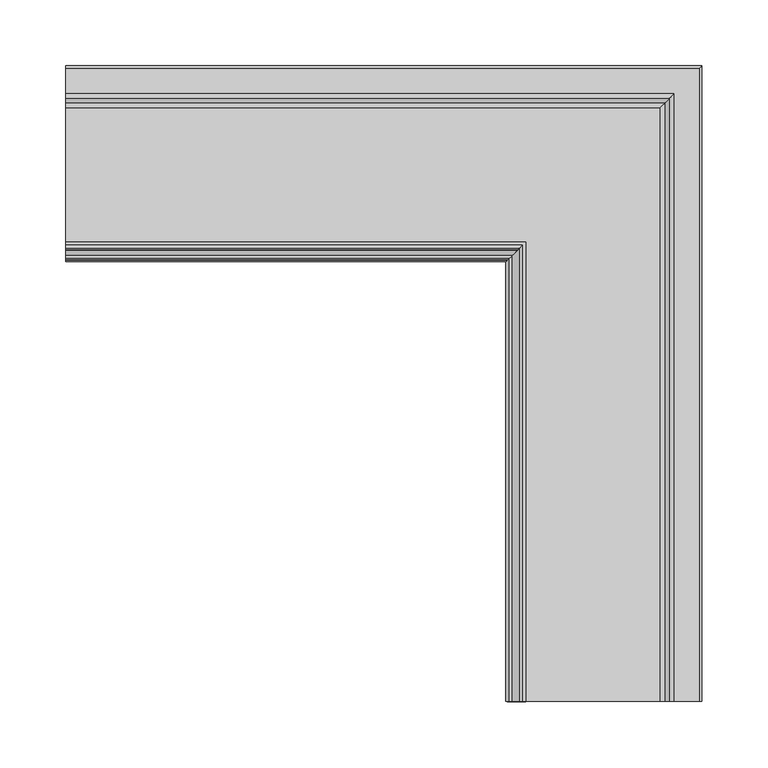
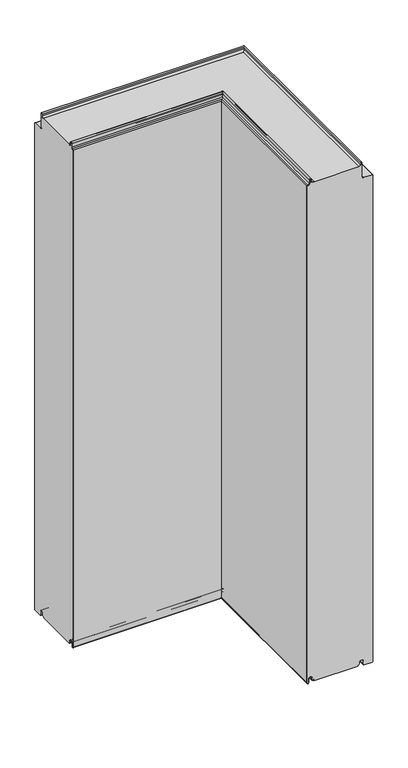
"""IFC4 building model written with IfcOpenShell, lengths in millimetres: plate geometry, Угловой модуль Fronttop : Угловой модуль Fronttop 150/1190."""

from ifc_helpers import new_model, si_unit, frame, origin, place, context, project, spatial, polyline, circle_curve, ellipse_curve, source, transform, mapped, element, save
from ifc_brep_helpers import plane_surface, cylinder_surface, revolved_surface, advanced_brep


def plate_540ac33f(model_context):
    return source(origin(), model_context, "Body", "AdvancedBrep", [
        advanced_brep(
        [(-234.5, 15.0, 3.0), (-234.5, 13.0, 3.0), (-234.5, 12.0, 4.0), (-234.5, 12.0, 8.0), (-234.5, 3.0, 8.0), (-234.5, 3.0, -0.5), (-234.5, 1.0, -0.5), (-234.5, 1.0, 1185.0278643), (-234.5, 2.1111111, 1186.0216723), (-234.5, 6.0, 1189.5), (-234.5, 6.0, 1198.0), (-234.5, 9.0, 1198.0), (-234.5, 9.0, 1194.0), (-234.5, 13.0, 1190.0), (-234.5, 117.0, 1190.0), (-234.5, 121.0, 1194.0), (-234.5, 121.0, 1198.0), (-234.5, 124.0, 1198.0), (-234.5, 124.0, 1165.0), (-234.5, 128.0, 1161.0), (-234.5, 147.0, 1161.0), (-234.5, 149.0, 1159.0), (-234.5, 149.0, 0.0), (-234.5, 147.0, -2.0), (-234.5, 129.0, -2.0), (-234.5, 127.0, 0.0), (-234.5, 127.0, 8.0), (-234.5, 118.0, 8.0), (-234.5, 118.0, 4.0), (-234.5, 117.0, 3.0), (-234.5, 115.0, 3.0), (-234.5, 115.0, 0.0), (-234.5, 15.0, 0.0), (115.0, 15.0, 0.0), (115.0, 15.0, 3.0), (215.0, 115.0, 0.0), (215.0, -334.5, 0.0), (115.0, -334.5, 0.0), (215.0, 115.0, 3.0), (217.0, 117.0, 3.0), (217.0, -334.5, 3.0), (215.0, -334.5, 3.0), (218.0, 118.0, 4.0), (218.0, 118.0, 8.0), (227.0, 127.0, 8.0), (227.0, 127.0, 0.0), (229.0, 129.0, -2.0), (247.0, 147.0, -2.0), (247.0, -334.5, -2.0), (229.0, -334.5, -2.0), (249.0, 149.0, 0.0), (249.0, 149.0, 1159.0), (247.0, 147.0, 1161.0), (228.0, 128.0, 1161.0), (228.0, -334.5, 1161.0), (247.0, -334.5, 1161.0), (224.0, 124.0, 1165.0), (224.0, 124.0, 1198.0), (221.0, 121.0, 1198.0), (221.0, 121.0, 1194.0), (217.0, 117.0, 1190.0), (113.0, 13.0, 1190.0), (113.0, -334.5, 1190.0), (217.0, -334.5, 1190.0), (109.0, 9.0, 1194.0), (109.0, 9.0, 1198.0), (106.0, 6.0, 1198.0), (106.0, 6.0, 1189.5), (102.1111111, 2.1111111, 1186.021672), (101.0, 1.0, 1185.0278643), (101.0, 1.0, -0.5), (103.0, 3.0, -0.5), (103.0, 3.0, 8.0), (112.0, 12.0, 8.0), (112.0, 12.0, 4.0), (113.0, 13.0, 3.0), (115.0, -334.5, 3.0), (113.0, -334.5, 3.0), (218.0, -334.5, 4.0), (218.0, -334.5, 8.0), (227.0, -334.5, 8.0), (227.0, -334.5, 0.0), (249.0, -334.5, 0.0), (249.0, -334.5, 1159.0), (224.0, -334.5, 1165.0), (224.0, -334.5, 1198.0), (221.0, -334.5, 1198.0), (221.0, -334.5, 1194.0), (109.0, -334.5, 1194.0), (109.0, -334.5, 1198.0), (106.0, -334.5, 1198.0), (106.0, -334.5, 1189.5), (102.1111111, -334.5, 1186.021672), (101.0, -334.5, 1185.0278643), (101.0, -334.5, -0.5), (103.0, -334.5, -0.5), (103.0, -334.5, 8.0), (112.0, -334.5, 8.0), (112.0, -334.5, 4.0)],
        [
            (0, 1),
            (1, 2, circle_curve(frame((-234.5, 13.0, 4.0), z_axis=(-1.0, 0.0, 0.0), x_axis=(0.0, -1.0, 0.0)), 1.0)),
            (2, 3),
            (3, 4, circle_curve(frame((-234.5, 7.5, 8.0), z_axis=(1.0, 0.0, 0.0), x_axis=(0.0, -1.0, 0.0)), 4.5)),
            (4, 5),
            (5, 6, circle_curve(frame((-234.5, 2.0, -0.5), z_axis=(-1.0, 0.0, 0.0), x_axis=(0.0, -1.0, 0.0)), 1.0)),
            (6, 7),
            (7, 8, circle_curve(frame((-234.5, 2.0, 1185.0278643), z_axis=(-1.0, 0.0, 0.0), x_axis=(0.0, -1.0, 0.0)), 1.0)),
            (8, 9, circle_curve(frame((-234.5, 2.5, 1189.5), z_axis=(1.0, 0.0, 0.0), x_axis=(0.0, -1.0, 0.0)), 3.5)),
            (9, 10),
            (10, 11, circle_curve(frame((-234.5, 7.5, 1198.0), z_axis=(-1.0, 0.0, 0.0), x_axis=(0.0, -1.0, 0.0)), 1.5)),
            (11, 12),
            (12, 13, circle_curve(frame((-234.5, 13.0, 1194.0), z_axis=(1.0, 0.0, 0.0), x_axis=(0.0, -1.0, 0.0)), 4.0)),
            (13, 14),
            (14, 15, circle_curve(frame((-234.5, 117.0, 1194.0), z_axis=(1.0, 0.0, 0.0), x_axis=(0.0, -1.0, 0.0)), 4.0)),
            (15, 16),
            (16, 17, circle_curve(frame((-234.5, 122.5, 1198.0), z_axis=(-1.0, 0.0, 0.0), x_axis=(0.0, -1.0, 0.0)), 1.5)),
            (17, 18),
            (18, 19, circle_curve(frame((-234.5, 128.0, 1165.0), z_axis=(1.0, 0.0, 0.0), x_axis=(0.0, -1.0, 0.0)), 4.0)),
            (19, 20),
            (20, 21, circle_curve(frame((-234.5, 147.0, 1159.0), z_axis=(-1.0, 0.0, 0.0), x_axis=(0.0, -1.0, 0.0)), 2.0)),
            (21, 22),
            (22, 23, circle_curve(frame((-234.5, 147.0, 0.0), z_axis=(-1.0, 0.0, 0.0), x_axis=(0.0, -1.0, 0.0)), 2.0)),
            (23, 24),
            (24, 25, circle_curve(frame((-234.5, 129.0, 0.0), z_axis=(-1.0, 0.0, 0.0), x_axis=(0.0, -1.0, 0.0)), 2.0)),
            (25, 26),
            (26, 27, circle_curve(frame((-234.5, 122.5, 8.0), z_axis=(1.0, 0.0, 0.0), x_axis=(0.0, -1.0, 0.0)), 4.5)),
            (27, 28),
            (28, 29, circle_curve(frame((-234.5, 117.0, 4.0), z_axis=(-1.0, 0.0, 0.0), x_axis=(0.0, -1.0, 0.0)), 1.0)),
            (29, 30),
            (30, 31),
            (31, 32),
            (32, 0),
            (32, 33),
            (33, 34),
            (34, 0),
            (31, 35),
            (35, 36),
            (36, 37),
            (37, 33),
            (30, 38),
            (38, 35),
            (29, 39),
            (39, 40),
            (40, 41),
            (41, 38),
            (28, 42),
            (42, 39, ellipse_curve(frame((217.0, 117.0, 4.0), z_axis=(-0.7071067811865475, 0.7071067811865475, 0.0), x_axis=(-0.7071067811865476, -0.7071067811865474, 0.0)), 1.4142136, 1.0)),
            (27, 43),
            (43, 42),
            (26, 44),
            (44, 43, ellipse_curve(frame((222.5, 122.5, 8.0), z_axis=(0.7071067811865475, -0.7071067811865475, 0.0), x_axis=(0.7071067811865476, 0.7071067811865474, 0.0)), 6.363961, 4.5)),
            (25, 45),
            (45, 44),
            (24, 46),
            (46, 45, ellipse_curve(frame((229.0, 129.0, 0.0), z_axis=(-0.7071067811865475, 0.7071067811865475, 0.0), x_axis=(-0.7071067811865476, -0.7071067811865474, 0.0)), 2.8284271, 2.0)),
            (23, 47),
            (47, 48),
            (48, 49),
            (49, 46),
            (22, 50),
            (50, 47, ellipse_curve(frame((247.0, 147.0, 0.0), z_axis=(-0.7071067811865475, 0.7071067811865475, 0.0), x_axis=(-0.7071067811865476, -0.7071067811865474, 0.0)), 2.8284271, 2.0)),
            (21, 51),
            (51, 50),
            (20, 52),
            (52, 51, ellipse_curve(frame((247.0, 147.0, 1159.0), z_axis=(-0.7071067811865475, 0.7071067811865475, 0.0), x_axis=(-0.7071067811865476, -0.7071067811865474, 0.0)), 2.8284271, 2.0)),
            (19, 53),
            (53, 54),
            (54, 55),
            (55, 52),
            (18, 56),
            (56, 53, ellipse_curve(frame((228.0, 128.0, 1165.0), z_axis=(0.7071067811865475, -0.7071067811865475, 0.0), x_axis=(0.7071067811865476, 0.7071067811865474, 0.0)), 5.6568542, 4.0)),
            (17, 57),
            (57, 56),
            (16, 58),
            (58, 57, ellipse_curve(frame((222.5, 122.5, 1198.0), z_axis=(-0.7071067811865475, 0.7071067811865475, 0.0), x_axis=(-0.7071067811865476, -0.7071067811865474, 0.0)), 2.1213203, 1.5)),
            (15, 59),
            (59, 58),
            (14, 60),
            (60, 59, ellipse_curve(frame((217.0, 117.0, 1194.0), z_axis=(0.7071067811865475, -0.7071067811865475, 0.0), x_axis=(0.7071067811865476, 0.7071067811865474, 0.0)), 5.6568542, 4.0)),
            (13, 61),
            (61, 62),
            (62, 63),
            (63, 60),
            (12, 64),
            (64, 61, ellipse_curve(frame((113.0, 13.0, 1194.0), z_axis=(0.7071067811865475, -0.7071067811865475, 0.0), x_axis=(0.7071067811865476, 0.7071067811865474, 0.0)), 5.6568542, 4.0)),
            (11, 65),
            (65, 64),
            (10, 66),
            (66, 65, ellipse_curve(frame((107.5, 7.5, 1198.0), z_axis=(-0.7071067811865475, 0.7071067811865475, 0.0), x_axis=(-0.7071067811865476, -0.7071067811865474, 0.0)), 2.1213204, 1.5)),
            (9, 67),
            (67, 66),
            (8, 68),
            (68, 67, ellipse_curve(frame((102.5, 2.5, 1189.5), z_axis=(0.7071067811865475, -0.7071067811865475, 0.0), x_axis=(0.7071067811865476, 0.7071067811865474, 0.0)), 4.9497475, 3.5)),
            (7, 69),
            (69, 68, ellipse_curve(frame((102.0, 2.0, 1185.0278643), z_axis=(-0.7071067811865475, 0.7071067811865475, 0.0), x_axis=(-0.7071067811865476, -0.7071067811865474, 0.0)), 1.4142136, 1.0)),
            (6, 70),
            (70, 69),
            (5, 71),
            (71, 70, ellipse_curve(frame((102.0, 2.0, -0.5), z_axis=(-0.7071067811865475, 0.7071067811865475, 0.0), x_axis=(-0.7071067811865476, -0.7071067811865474, 0.0)), 1.4142136, 1.0)),
            (4, 72),
            (72, 71),
            (3, 73),
            (73, 72, ellipse_curve(frame((107.5, 7.5, 8.0), z_axis=(0.7071067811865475, -0.7071067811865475, 0.0), x_axis=(0.7071067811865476, 0.7071067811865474, 0.0)), 6.363961, 4.5)),
            (2, 74),
            (74, 73),
            (1, 75),
            (75, 74, ellipse_curve(frame((113.0, 13.0, 4.0), z_axis=(-0.7071067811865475, 0.7071067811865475, 0.0), x_axis=(-0.7071067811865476, -0.7071067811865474, 0.0)), 1.4142136, 1.0)),
            (34, 76),
            (76, 77),
            (77, 75),
            (76, 37),
            (36, 41),
            (40, 78, circle_curve(frame((217.0, -334.5, 4.0), z_axis=(0.0, -1.0, 0.0), x_axis=(-1.0, 0.0, 0.0)), 1.0)),
            (78, 79),
            (79, 80, circle_curve(frame((222.5, -334.5, 8.0), z_axis=(0.0, 1.0, 0.0), x_axis=(-1.0, 0.0, 0.0)), 4.5)),
            (80, 81),
            (81, 49, circle_curve(frame((229.0, -334.5, 0.0), z_axis=(0.0, -1.0, 0.0), x_axis=(-1.0, 0.0, 0.0)), 2.0)),
            (48, 82, circle_curve(frame((247.0, -334.5, 0.0), z_axis=(0.0, -1.0, 0.0), x_axis=(-1.0, 0.0, 0.0)), 2.0)),
            (82, 83),
            (83, 55, circle_curve(frame((247.0, -334.5, 1159.0), z_axis=(0.0, -1.0, 0.0), x_axis=(-1.0, 0.0, 0.0)), 2.0)),
            (54, 84, circle_curve(frame((228.0, -334.5, 1165.0), z_axis=(0.0, 1.0, 0.0), x_axis=(-1.0, 0.0, 0.0)), 4.0)),
            (84, 85),
            (85, 86, circle_curve(frame((222.5, -334.5, 1198.0), z_axis=(0.0, -1.0, 0.0), x_axis=(-1.0, 0.0, 0.0)), 1.5)),
            (86, 87),
            (87, 63, circle_curve(frame((217.0, -334.5, 1194.0), z_axis=(0.0, 1.0, 0.0), x_axis=(-1.0, 0.0, 0.0)), 4.0)),
            (62, 88, circle_curve(frame((113.0, -334.5, 1194.0), z_axis=(0.0, 1.0, 0.0), x_axis=(-1.0, 0.0, 0.0)), 4.0)),
            (88, 89),
            (89, 90, circle_curve(frame((107.5, -334.5, 1198.0), z_axis=(0.0, -1.0, 0.0), x_axis=(-1.0, 0.0, 0.0)), 1.5)),
            (90, 91),
            (91, 92, circle_curve(frame((102.5, -334.5, 1189.5), z_axis=(0.0, 1.0, 0.0), x_axis=(-1.0, 0.0, 0.0)), 3.5)),
            (92, 93, circle_curve(frame((102.0, -334.5, 1185.0278643), z_axis=(0.0, -1.0, 0.0), x_axis=(-1.0, 0.0, 0.0)), 1.0)),
            (93, 94),
            (94, 95, circle_curve(frame((102.0, -334.5, -0.5), z_axis=(0.0, -1.0, 0.0), x_axis=(-1.0, 0.0, 0.0)), 1.0)),
            (95, 96),
            (96, 97, circle_curve(frame((107.5, -334.5, 8.0), z_axis=(0.0, 1.0, 0.0), x_axis=(-1.0, 0.0, 0.0)), 4.5)),
            (97, 98),
            (98, 77, circle_curve(frame((113.0, -334.5, 4.0), z_axis=(0.0, -1.0, 0.0), x_axis=(-1.0, 0.0, 0.0)), 1.0)),
            (42, 78),
            (43, 79),
            (44, 80),
            (45, 81),
            (50, 82),
            (51, 83),
            (56, 84),
            (57, 85),
            (58, 86),
            (59, 87),
            (64, 88),
            (65, 89),
            (66, 90),
            (67, 91),
            (68, 92),
            (69, 93),
            (70, 94),
            (71, 95),
            (72, 96),
            (73, 97),
            (74, 98),
        ],
        [
            plane_surface(frame((-234.5, 0.0, 0.0), z_axis=(-1.0, 0.0, 0.0), x_axis=(0.0, 0.0, 1.0))),
            plane_surface(frame((-234.5, 15.0, 0.0), z_axis=(0.0, -1.0, 0.0), x_axis=(1.0, 0.0, 0.0))),
            plane_surface(frame((-234.5, 115.0, 0.0), z_axis=(0.0, 0.0, -1.0), x_axis=(1.0, 0.0, 0.0))),
            plane_surface(frame((-234.5, 115.0, 3.0), z_axis=(0.0, 1.0, 0.0), x_axis=(1.0, 0.0, 0.0))),
            plane_surface(frame((-234.5, 117.0, 3.0), z_axis=(0.0, 0.0, -1.0), x_axis=(1.0, 0.0, 0.0))),
            cylinder_surface(frame((-234.5, 117.0, 4.0), z_axis=(-1.0, 0.0, 0.0), x_axis=(0.0, -1.0, 0.0)), 1.0),
            plane_surface(frame((-234.5, 118.0, 8.0), z_axis=(0.0, 1.0, 0.0), x_axis=(1.0, 0.0, 0.0))),
            revolved_surface(polyline([(227.0, 118.0, 8.0), (-234.5, 118.0, 8.0)]), (-234.5, 122.5, 8.0), (1.0, 0.0, 0.0)),
            plane_surface(frame((-234.5, 127.0, 0.0), z_axis=(0.0, -1.0, 0.0), x_axis=(1.0, 0.0, 0.0))),
            cylinder_surface(frame((-234.5, 129.0, 0.0), z_axis=(-1.0, 0.0, 0.0), x_axis=(0.0, -1.0, 0.0)), 2.0),
            plane_surface(frame((-234.5, 147.0, -2.0), z_axis=(0.0, 0.0, -1.0), x_axis=(1.0, 0.0, 0.0))),
            cylinder_surface(frame((-234.5, 147.0, 0.0), z_axis=(-1.0, 0.0, 0.0), x_axis=(0.0, -1.0, 0.0)), 2.0),
            plane_surface(frame((-234.5, 149.0, 1159.0), z_axis=(0.0, 1.0, 0.0), x_axis=(1.0, 0.0, 0.0))),
            cylinder_surface(frame((-234.5, 147.0, 1159.0), z_axis=(-1.0, 0.0, 0.0), x_axis=(0.0, -1.0, 0.0)), 2.0),
            plane_surface(frame((-234.5, 128.0, 1161.0), z_axis=(0.0, 0.0, 1.0), x_axis=(1.0, 0.0, 0.0))),
            revolved_surface(polyline([(231.9999999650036, 124.0, 1165.0), (-234.5, 124.0, 1165.0)]), (-234.5, 128.0, 1165.0), (1.0, 0.0, 0.0)),
            plane_surface(frame((-234.5, 124.0, 1198.0), z_axis=(0.0, 1.0, 0.0), x_axis=(1.0, 0.0, 0.0))),
            cylinder_surface(frame((-234.5, 122.5, 1198.0), z_axis=(-1.0, 0.0, 0.0), x_axis=(0.0, -1.0, 0.0)), 1.5),
            plane_surface(frame((-234.5, 121.0, 1194.0), z_axis=(0.0, -1.0, 0.0), x_axis=(1.0, 0.0, 0.0))),
            revolved_surface(polyline([(221.0, 113.0, 1194.0), (-234.5, 113.0, 1194.0)]), (-234.5, 117.0, 1194.0), (1.0, 0.0, 0.0)),
            plane_surface(frame((-234.5, 13.0, 1190.0), z_axis=(0.0, 0.0, 1.0), x_axis=(1.0, 0.0, 0.0))),
            revolved_surface(polyline([(116.99999996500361, 9.0, 1194.0), (-234.5, 9.0, 1194.0)]), (-234.5, 13.0, 1194.0), (1.0, 0.0, 0.0)),
            plane_surface(frame((-234.5, 9.0, 1198.0), z_axis=(0.0, 1.0, 0.0), x_axis=(1.0, 0.0, 0.0))),
            cylinder_surface(frame((-234.5, 7.5, 1198.0), z_axis=(-1.0, 0.0, 0.0), x_axis=(0.0, -1.0, 0.0)), 1.5),
            plane_surface(frame((-234.5, 6.0, 1189.5), z_axis=(0.0, -1.0, 0.0), x_axis=(1.0, 0.0, 0.0))),
            revolved_surface(polyline([(106.00000002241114, -1.0, 1189.5), (-234.5, -1.0, 1189.5)]), (-234.5, 2.5, 1189.5), (1.0, 0.0, 0.0)),
            cylinder_surface(frame((-234.5, 2.0, 1185.0278643), z_axis=(-1.0, 0.0, 0.0), x_axis=(0.0, -1.0, 0.0)), 1.0),
            plane_surface(frame((-234.5, 1.0, -0.5), z_axis=(0.0, -1.0, 0.0), x_axis=(1.0, 0.0, 0.0))),
            cylinder_surface(frame((-234.5, 2.0, -0.5), z_axis=(-1.0, 0.0, 0.0), x_axis=(0.0, -1.0, 0.0)), 1.0),
            plane_surface(frame((-234.5, 3.0, 8.0), z_axis=(0.0, 1.0, 0.0), x_axis=(1.0, 0.0, 0.0))),
            revolved_surface(polyline([(112.0, 3.0, 8.0), (-234.5, 3.0, 8.0)]), (-234.5, 7.5, 8.0), (1.0, 0.0, 0.0)),
            plane_surface(frame((-234.5, 12.0, 4.0), z_axis=(0.0, -1.0, 0.0), x_axis=(1.0, 0.0, 0.0))),
            cylinder_surface(frame((-234.5, 13.0, 4.0), z_axis=(-1.0, 0.0, 0.0), x_axis=(0.0, -1.0, 0.0)), 1.0),
            plane_surface(frame((-234.5, 15.0, 3.0), z_axis=(0.0, 0.0, -1.0), x_axis=(1.0, 0.0, 0.0))),
            plane_surface(frame((100.0, -334.5, 0.0), z_axis=(0.0, -1.0, 0.0), x_axis=(0.0, 0.0, 1.0))),
            plane_surface(frame((115.0, 15.0, 0.0), z_axis=(-1.0, 0.0, 0.0), x_axis=(0.0, -1.0, 0.0))),
            plane_surface(frame((215.0, 115.0, 3.0), z_axis=(1.0, 0.0, 0.0), x_axis=(0.0, -1.0, 0.0))),
            cylinder_surface(frame((217.0, 0.0, 4.0), z_axis=(0.0, 1.0, 0.0), x_axis=(-1.0, 0.0, 0.0)), 1.0),
            plane_surface(frame((218.0, 118.0, 8.0), z_axis=(1.0, 0.0, 0.0), x_axis=(0.0, -1.0, 0.0))),
            revolved_surface(polyline([(218.0, -334.5, 8.0), (218.0, 127.0, 8.0)]), (222.5, 0.0, 8.0), (0.0, -1.0, 0.0)),
            plane_surface(frame((227.0, 127.0, 0.0), z_axis=(-1.0, 0.0, 0.0), x_axis=(0.0, -1.0, 0.0))),
            cylinder_surface(frame((229.0, 0.0, 0.0), z_axis=(0.0, 1.0, 0.0), x_axis=(-1.0, 0.0, 0.0)), 2.0),
            cylinder_surface(frame((247.0, 0.0, 0.0), z_axis=(0.0, 1.0, 0.0), x_axis=(-1.0, 0.0, 0.0)), 2.0),
            plane_surface(frame((249.0, 149.0, 1159.0), z_axis=(1.0, 0.0, 0.0), x_axis=(0.0, -1.0, 0.0))),
            cylinder_surface(frame((247.0, 0.0, 1159.0), z_axis=(0.0, 1.0, 0.0), x_axis=(-1.0, 0.0, 0.0)), 2.0),
            revolved_surface(polyline([(224.0, -334.5, 1165.0), (224.0, 131.9999999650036, 1165.0)]), (228.0, 0.0, 1165.0), (0.0, -1.0, 0.0)),
            plane_surface(frame((224.0, 124.0, 1198.0), z_axis=(1.0, 0.0, 0.0), x_axis=(0.0, -1.0, 0.0))),
            cylinder_surface(frame((222.5, 0.0, 1198.0), z_axis=(0.0, 1.0, 0.0), x_axis=(-1.0, 0.0, 0.0)), 1.5),
            plane_surface(frame((221.0, 121.0, 1194.0), z_axis=(-1.0, 0.0, 0.0), x_axis=(0.0, -1.0, 0.0))),
            revolved_surface(polyline([(213.0, -334.5, 1194.0), (213.0, 121.0, 1194.0)]), (217.0, 0.0, 1194.0), (0.0, -1.0, 0.0)),
            revolved_surface(polyline([(109.0, -334.5, 1194.0), (109.0, 16.999999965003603, 1194.0)]), (113.0, 0.0, 1194.0), (0.0, -1.0, 0.0)),
            plane_surface(frame((109.0, 9.0, 1198.0), z_axis=(1.0, 0.0, 0.0), x_axis=(0.0, -1.0, 0.0))),
            cylinder_surface(frame((107.5, 0.0, 1198.0), z_axis=(0.0, 1.0, 0.0), x_axis=(-1.0, 0.0, 0.0)), 1.5),
            plane_surface(frame((106.0, 6.0, 1189.5), z_axis=(-1.0, 0.0, 0.0), x_axis=(0.0, -1.0, 0.0))),
            revolved_surface(polyline([(99.0, -334.5, 1189.5), (99.0, 6.000000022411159, 1189.5)]), (102.5, 0.0, 1189.5), (0.0, -1.0, 0.0)),
            cylinder_surface(frame((102.0, 0.0, 1185.0278643), z_axis=(0.0, 1.0, 0.0), x_axis=(-1.0, 0.0, 0.0)), 1.0),
            plane_surface(frame((101.0, 1.0, -0.5), z_axis=(-1.0, 0.0, 0.0), x_axis=(0.0, -1.0, 0.0))),
            cylinder_surface(frame((102.0, 0.0, -0.5), z_axis=(0.0, 1.0, 0.0), x_axis=(-1.0, 0.0, 0.0)), 1.0),
            plane_surface(frame((103.0, 3.0, 8.0), z_axis=(1.0, 0.0, 0.0), x_axis=(0.0, -1.0, 0.0))),
            revolved_surface(polyline([(103.0, -334.5, 8.0), (103.0, 12.0, 8.0)]), (107.5, 0.0, 8.0), (0.0, -1.0, 0.0)),
            plane_surface(frame((112.0, 12.0, 4.0), z_axis=(-1.0, 0.0, 0.0), x_axis=(0.0, -1.0, 0.0))),
            cylinder_surface(frame((113.0, 0.0, 4.0), z_axis=(0.0, 1.0, 0.0), x_axis=(-1.0, 0.0, 0.0)), 1.0),
        ],
        [
            (0, [[1, 2, 3, 4, 5, 6, 7, 8, 9, 10, 11, 12, 13, 14, 15, 16, 17, 18, 19, 20, 21, 22, 23, 24, 25, 26, 27, 28, 29, 30, 31, 32, 33]]),
            (1, [[-33, 34, 35, 36]]),
            (2, [[-32, 37, 38, 39, 40, -34]]),
            (3, [[-31, 41, 42, -37]]),
            (4, [[-30, 43, 44, 45, 46, -41]]),
            (5, [[-29, 47, 48, -43]]),
            (6, [[-28, 49, 50, -47]]),
            (7, [[-27, 51, 52, -49]]),
            (8, [[-26, 53, 54, -51]]),
            (9, [[-25, 55, 56, -53]]),
            (10, [[-24, 57, 58, 59, 60, -55]]),
            (11, [[-23, 61, 62, -57]]),
            (12, [[-22, 63, 64, -61]]),
            (13, [[-21, 65, 66, -63]]),
            (14, [[-20, 67, 68, 69, 70, -65]]),
            (15, [[-19, 71, 72, -67]]),
            (16, [[-18, 73, 74, -71]]),
            (17, [[-17, 75, 76, -73]]),
            (18, [[-16, 77, 78, -75]]),
            (19, [[-15, 79, 80, -77]]),
            (20, [[-14, 81, 82, 83, 84, -79]]),
            (21, [[-13, 85, 86, -81]]),
            (22, [[-12, 87, 88, -85]]),
            (23, [[-11, 89, 90, -87]]),
            (24, [[-10, 91, 92, -89]]),
            (25, [[-9, 93, 94, -91]]),
            (26, [[-8, 95, 96, -93]]),
            (27, [[-7, 97, 98, -95]]),
            (28, [[-6, 99, 100, -97]]),
            (29, [[-5, 101, 102, -99]]),
            (30, [[-4, 103, 104, -101]]),
            (31, [[-3, 105, 106, -103]]),
            (32, [[-2, 107, 108, -105]]),
            (33, [[-1, -36, 109, 110, 111, -107]]),
            (34, [[112, -39, 113, -45, 114, 115, 116, 117, 118, -59, 119, 120, 121, -69, 122, 123, 124, 125, 126, -83, 127, 128, 129, 130, 131, 132, 133, 134, 135, 136, 137, 138, -110]]),
            (35, [[-35, -40, -112, -109]]),
            (36, [[-42, -46, -113, -38]]),
            (37, [[-48, 139, -114, -44]]),
            (38, [[-50, 140, -115, -139]]),
            (39, [[-52, 141, -116, -140]]),
            (40, [[-54, 142, -117, -141]]),
            (41, [[-56, -60, -118, -142]]),
            (42, [[-62, 143, -119, -58]]),
            (43, [[-64, 144, -120, -143]]),
            (44, [[-66, -70, -121, -144]]),
            (45, [[-72, 145, -122, -68]]),
            (46, [[-74, 146, -123, -145]]),
            (47, [[-76, 147, -124, -146]]),
            (48, [[-78, 148, -125, -147]]),
            (49, [[-80, -84, -126, -148]]),
            (50, [[-86, 149, -127, -82]]),
            (51, [[-88, 150, -128, -149]]),
            (52, [[-90, 151, -129, -150]]),
            (53, [[-92, 152, -130, -151]]),
            (54, [[-94, 153, -131, -152]]),
            (55, [[-96, 154, -132, -153]]),
            (56, [[-98, 155, -133, -154]]),
            (57, [[-100, 156, -134, -155]]),
            (58, [[-102, 157, -135, -156]]),
            (59, [[-104, 158, -136, -157]]),
            (60, [[-106, 159, -137, -158]]),
            (61, [[-108, -111, -138, -159]]),
        ],
    ),
        advanced_brep(
        [(-234.5, 13.0, 1191.0), (-234.5, 15.0, 1191.0), (-234.5, 15.0, 1190.0), (-234.5, 13.0, 1190.0), (-234.5, 9.0, 1194.0), (-234.5, 9.0, 1198.0), (-234.5, 6.0, 1198.0), (-234.5, 6.0, 1189.5), (-234.5, 2.1134897, 1186.0214069), (-234.5, 1.0, 1185.0), (-234.5, 1.0, -0.5), (-234.5, 3.0, -0.5), (-234.5, 3.0, 8.0), (-234.5, 12.0, 8.0), (-234.5, 12.0, 4.0), (-234.5, 13.0, 3.0), (-234.5, 15.0, 3.0), (-234.5, 15.0, 2.0), (-234.5, 13.0, 2.0), (-234.5, 11.0, 4.0), (-234.5, 11.0, 8.0), (-234.5, 4.0, 8.0), (-234.5, 4.0, -0.5), (-234.5, 0.0, -0.5), (-234.5, 0.0, 1185.0), (-234.5, 2.220863, 1186.9877675), (-234.5, 5.0, 1189.5), (-234.5, 5.0, 1198.0), (-234.5, 10.0, 1198.0), (-234.5, 10.0, 1194.0), (113.0, 13.0, 1191.0), (113.0, -334.5, 1191.0), (115.0, -334.5, 1191.0), (115.0, 15.0, 1191.0), (115.0, 15.0, 1190.0), (115.0, -334.5, 1190.0), (113.0, -334.5, 1190.0), (113.0, 13.0, 1190.0), (109.0, 9.0, 1194.0), (109.0, 9.0, 1198.0), (106.0, 6.0, 1198.0), (106.0, 6.0, 1189.5), (102.1134897, 2.1134897, 1186.0214069), (101.0, 1.0, 1185.0), (101.0, 1.0, -0.5), (103.0, 3.0, -0.5), (103.0, 3.0, 8.0), (112.0, 12.0, 8.0), (112.0, 12.0, 4.0), (113.0, 13.0, 3.0), (113.0, -334.5, 3.0), (115.0, -334.5, 3.0), (115.0, 15.0, 3.0), (115.0, 15.0, 2.0), (115.0, -334.5, 2.0), (113.0, -334.5, 2.0), (113.0, 13.0, 2.0), (111.0, 11.0, 4.0), (111.0, 11.0, 8.0), (104.0, 4.0, 8.0), (104.0, 4.0, -0.5), (100.0, 0.0, -0.5), (100.0, 0.0, 1185.0), (102.220863, 2.220863, 1186.9877675), (105.0, 5.0, 1189.5), (105.0, 5.0, 1198.0), (110.0, 10.0, 1198.0), (110.0, 10.0, 1194.0), (110.0, -334.5, 1194.0), (110.0, -334.5, 1198.0), (105.0, -334.5, 1198.0), (105.0, -334.5, 1189.5), (102.2239212, -334.5, 1187.0152907), (100.0, -334.5, 1185.0), (100.0, -334.5, -0.5), (104.0, -334.5, -0.5), (104.0, -334.5, 8.0), (111.0, -334.5, 8.0), (111.0, -334.5, 4.0), (112.0, -334.5, 4.0), (112.0, -334.5, 8.0), (103.0, -334.5, 8.0), (103.0, -334.5, -0.5), (101.0, -334.5, -0.5), (101.0, -334.5, 1185.0), (102.1104315, -334.5, 1185.9938837), (106.0, -334.5, 1189.5), (106.0, -334.5, 1198.0), (109.0, -334.5, 1198.0), (109.0, -334.5, 1194.0)],
        [
            (0, 1),
            (1, 2),
            (2, 3),
            (3, 4, circle_curve(frame((-234.5, 13.0, 1194.0), z_axis=(-1.0, 0.0, 0.0), x_axis=(0.0, -1.0, 0.0)), 4.0)),
            (4, 5),
            (5, 6, circle_curve(frame((-234.5, 7.5, 1198.0), z_axis=(1.0, 0.0, 0.0), x_axis=(0.0, -1.0, 0.0)), 1.5)),
            (6, 7),
            (7, 8, circle_curve(frame((-234.5, 2.5, 1189.5), z_axis=(-1.0, 0.0, 0.0), x_axis=(0.0, -1.0, 0.0)), 3.5)),
            (8, 9, circle_curve(frame((-234.5, 2.0, 1185.0), z_axis=(1.0, 0.0, 0.0), x_axis=(0.0, -1.0, 0.0)), 1.0)),
            (9, 10),
            (10, 11, circle_curve(frame((-234.5, 2.0, -0.5), z_axis=(1.0, 0.0, 0.0), x_axis=(0.0, -1.0, 0.0)), 1.0)),
            (11, 12),
            (12, 13, circle_curve(frame((-234.5, 7.5, 8.0), z_axis=(-1.0, 0.0, 0.0), x_axis=(0.0, -1.0, 0.0)), 4.5)),
            (13, 14),
            (14, 15, circle_curve(frame((-234.5, 13.0, 4.0), z_axis=(1.0, 0.0, 0.0), x_axis=(0.0, -1.0, 0.0)), 1.0)),
            (15, 16),
            (16, 17),
            (17, 18),
            (18, 19, circle_curve(frame((-234.5, 13.0, 4.0), z_axis=(-1.0, 0.0, 0.0), x_axis=(0.0, -1.0, 0.0)), 2.0)),
            (19, 20),
            (20, 21, circle_curve(frame((-234.5, 7.5, 8.0), z_axis=(1.0, 0.0, 0.0), x_axis=(0.0, -1.0, 0.0)), 3.5)),
            (21, 22),
            (22, 23, circle_curve(frame((-234.5, 2.0, -0.5), z_axis=(-1.0, 0.0, 0.0), x_axis=(0.0, -1.0, 0.0)), 2.0)),
            (23, 24),
            (24, 25, circle_curve(frame((-234.5, 2.0, 1185.0), z_axis=(-1.0, 0.0, 0.0), x_axis=(0.0, -1.0, 0.0)), 2.0)),
            (25, 26, circle_curve(frame((-234.5, 2.5, 1189.5), z_axis=(1.0, 0.0, 0.0), x_axis=(0.0, -1.0, 0.0)), 2.5)),
            (26, 27),
            (27, 28, circle_curve(frame((-234.5, 7.5, 1198.0), z_axis=(-1.0, 0.0, 0.0), x_axis=(0.0, -1.0, 0.0)), 2.5)),
            (28, 29),
            (29, 0, circle_curve(frame((-234.5, 13.0, 1194.0), z_axis=(1.0, 0.0, 0.0), x_axis=(0.0, -1.0, 0.0)), 3.0)),
            (0, 30),
            (30, 31),
            (31, 32),
            (32, 33),
            (33, 1),
            (33, 34),
            (34, 2),
            (34, 35),
            (35, 36),
            (36, 37),
            (37, 3),
            (37, 38, ellipse_curve(frame((113.0, 13.0, 1194.0), z_axis=(-0.7071067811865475, 0.7071067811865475, 0.0), x_axis=(-0.7071067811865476, -0.7071067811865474, 0.0)), 5.6568542, 4.0)),
            (38, 4),
            (38, 39),
            (39, 5),
            (39, 40, ellipse_curve(frame((107.5, 7.5, 1198.0), z_axis=(0.7071067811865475, -0.7071067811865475, 0.0), x_axis=(0.7071067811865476, 0.7071067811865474, 0.0)), 2.1213204, 1.5)),
            (40, 6),
            (40, 41),
            (41, 7),
            (41, 42, ellipse_curve(frame((102.5, 2.5, 1189.5), z_axis=(-0.7071067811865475, 0.7071067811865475, 0.0), x_axis=(-0.7071067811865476, -0.7071067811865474, 0.0)), 4.9497475, 3.5)),
            (42, 8),
            (42, 43, ellipse_curve(frame((102.0, 2.0, 1185.0), z_axis=(0.7071067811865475, -0.7071067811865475, 0.0), x_axis=(0.7071067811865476, 0.7071067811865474, 0.0)), 1.4142136, 1.0)),
            (43, 9),
            (43, 44),
            (44, 10),
            (44, 45, ellipse_curve(frame((102.0, 2.0, -0.5), z_axis=(0.7071067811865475, -0.7071067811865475, 0.0), x_axis=(0.7071067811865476, 0.7071067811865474, 0.0)), 1.4142136, 1.0)),
            (45, 11),
            (45, 46),
            (46, 12),
            (46, 47, ellipse_curve(frame((107.5, 7.5, 8.0), z_axis=(-0.7071067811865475, 0.7071067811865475, 0.0), x_axis=(-0.7071067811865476, -0.7071067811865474, 0.0)), 6.363961, 4.5)),
            (47, 13),
            (47, 48),
            (48, 14),
            (48, 49, ellipse_curve(frame((113.0, 13.0, 4.0), z_axis=(0.7071067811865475, -0.7071067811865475, 0.0), x_axis=(0.7071067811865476, 0.7071067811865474, 0.0)), 1.4142136, 1.0)),
            (49, 15),
            (49, 50),
            (50, 51),
            (51, 52),
            (52, 16),
            (52, 53),
            (53, 17),
            (53, 54),
            (54, 55),
            (55, 56),
            (56, 18),
            (56, 57, ellipse_curve(frame((113.0, 13.0, 4.0), z_axis=(-0.7071067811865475, 0.7071067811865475, 0.0), x_axis=(-0.7071067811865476, -0.7071067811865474, 0.0)), 2.8284271, 2.0)),
            (57, 19),
            (57, 58),
            (58, 20),
            (58, 59, ellipse_curve(frame((107.5, 7.5, 8.0), z_axis=(0.7071067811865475, -0.7071067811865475, 0.0), x_axis=(0.7071067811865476, 0.7071067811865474, 0.0)), 4.9497475, 3.5)),
            (59, 21),
            (59, 60),
            (60, 22),
            (60, 61, ellipse_curve(frame((102.0, 2.0, -0.5), z_axis=(-0.7071067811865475, 0.7071067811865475, 0.0), x_axis=(-0.7071067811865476, -0.7071067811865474, 0.0)), 2.8284271, 2.0)),
            (61, 23),
            (61, 62),
            (62, 24),
            (62, 63, ellipse_curve(frame((102.0, 2.0, 1185.0), z_axis=(-0.7071067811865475, 0.7071067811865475, 0.0), x_axis=(-0.7071067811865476, -0.7071067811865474, 0.0)), 2.8284271, 2.0)),
            (63, 25),
            (63, 64, ellipse_curve(frame((102.5, 2.5, 1189.5), z_axis=(0.7071067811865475, -0.7071067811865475, 0.0), x_axis=(0.7071067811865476, 0.7071067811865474, 0.0)), 3.5355339, 2.5)),
            (64, 26),
            (64, 65),
            (65, 27),
            (65, 66, ellipse_curve(frame((107.5, 7.5, 1198.0), z_axis=(-0.7071067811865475, 0.7071067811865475, 0.0), x_axis=(-0.7071067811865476, -0.7071067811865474, 0.0)), 3.5355339, 2.5)),
            (66, 28),
            (66, 67),
            (67, 29),
            (67, 30, ellipse_curve(frame((113.0, 13.0, 1194.0), z_axis=(0.7071067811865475, -0.7071067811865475, 0.0), x_axis=(0.7071067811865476, 0.7071067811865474, 0.0)), 4.2426407, 3.0)),
            (31, 68, circle_curve(frame((113.0, -334.5, 1194.0), z_axis=(0.0, 1.0, 0.0), x_axis=(-1.0, 0.0, 0.0)), 3.0)),
            (68, 69),
            (69, 70, circle_curve(frame((107.5, -334.5, 1198.0), z_axis=(0.0, -1.0, 0.0), x_axis=(-1.0, 0.0, 0.0)), 2.5)),
            (70, 71),
            (71, 72, circle_curve(frame((102.5, -334.5, 1189.5), z_axis=(0.0, 1.0, 0.0), x_axis=(-1.0, 0.0, 0.0)), 2.5)),
            (72, 73, circle_curve(frame((102.0, -334.5, 1185.0), z_axis=(0.0, -1.0, 0.0), x_axis=(-1.0, 0.0, 0.0)), 2.0)),
            (73, 74),
            (74, 75, circle_curve(frame((102.0, -334.5, -0.5), z_axis=(0.0, -1.0, 0.0), x_axis=(-1.0, 0.0, 0.0)), 2.0)),
            (75, 76),
            (76, 77, circle_curve(frame((107.5, -334.5, 8.0), z_axis=(0.0, 1.0, 0.0), x_axis=(-1.0, 0.0, 0.0)), 3.5)),
            (77, 78),
            (78, 55, circle_curve(frame((113.0, -334.5, 4.0), z_axis=(0.0, -1.0, 0.0), x_axis=(-1.0, 0.0, 0.0)), 2.0)),
            (54, 51),
            (50, 79, circle_curve(frame((113.0, -334.5, 4.0), z_axis=(0.0, 1.0, 0.0), x_axis=(-1.0, 0.0, 0.0)), 1.0)),
            (79, 80),
            (80, 81, circle_curve(frame((107.5, -334.5, 8.0), z_axis=(0.0, -1.0, 0.0), x_axis=(-1.0, 0.0, 0.0)), 4.5)),
            (81, 82),
            (82, 83, circle_curve(frame((102.0, -334.5, -0.5), z_axis=(0.0, 1.0, 0.0), x_axis=(-1.0, 0.0, 0.0)), 1.0)),
            (83, 84),
            (84, 85, circle_curve(frame((102.0, -334.5, 1185.0), z_axis=(0.0, 1.0, 0.0), x_axis=(-1.0, 0.0, 0.0)), 1.0)),
            (85, 86, circle_curve(frame((102.5, -334.5, 1189.5), z_axis=(0.0, -1.0, 0.0), x_axis=(-1.0, 0.0, 0.0)), 3.5)),
            (86, 87),
            (87, 88, circle_curve(frame((107.5, -334.5, 1198.0), z_axis=(0.0, 1.0, 0.0), x_axis=(-1.0, 0.0, 0.0)), 1.5)),
            (88, 89),
            (89, 36, circle_curve(frame((113.0, -334.5, 1194.0), z_axis=(0.0, -1.0, 0.0), x_axis=(-1.0, 0.0, 0.0)), 4.0)),
            (35, 32),
            (89, 38),
            (88, 39),
            (87, 40),
            (86, 41),
            (85, 42),
            (84, 43),
            (83, 44),
            (82, 45),
            (81, 46),
            (80, 47),
            (79, 48),
            (78, 57),
            (77, 58),
            (76, 59),
            (75, 60),
            (74, 61),
            (73, 62),
            (72, 63),
            (71, 64),
            (70, 65),
            (69, 66),
            (68, 67),
        ],
        [
            plane_surface(frame((-234.5, 0.0, 0.0), z_axis=(-1.0, 0.0, 0.0), x_axis=(0.0, 0.0, 1.0))),
            plane_surface(frame((-234.5, 13.0, 1191.0), z_axis=(0.0, 0.0, 1.0), x_axis=(1.0, 0.0, 0.0))),
            plane_surface(frame((-234.5, 15.0, 1191.0), z_axis=(0.0, 1.0, 0.0), x_axis=(1.0, 0.0, 0.0))),
            plane_surface(frame((-234.5, 15.0, 1190.0), z_axis=(0.0, 0.0, -1.0), x_axis=(1.0, 0.0, 0.0))),
            cylinder_surface(frame((-234.5, 13.0, 1194.0), z_axis=(-1.0, 0.0, 0.0), x_axis=(0.0, -1.0, 0.0)), 4.0),
            plane_surface(frame((-234.5, 9.0, 1194.0), z_axis=(0.0, -1.0, 0.0), x_axis=(1.0, 0.0, 0.0))),
            revolved_surface(polyline([(109.00000003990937, 6.0, 1198.0), (-234.5, 6.0, 1198.0)]), (-234.5, 7.5, 1198.0), (1.0, 0.0, 0.0)),
            plane_surface(frame((-234.5, 6.0, 1198.0), z_axis=(0.0, 1.0, 0.0), x_axis=(1.0, 0.0, 0.0))),
            cylinder_surface(frame((-234.5, 2.5, 1189.5), z_axis=(-1.0, 0.0, 0.0), x_axis=(0.0, -1.0, 0.0)), 3.5),
            revolved_surface(polyline([(103.00000002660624, 1.0, 1185.0), (-234.5, 1.0, 1185.0)]), (-234.5, 2.0, 1185.0), (1.0, 0.0, 0.0)),
            plane_surface(frame((-234.5, 1.0, 1185.0), z_axis=(0.0, 1.0, 0.0), x_axis=(1.0, 0.0, 0.0))),
            revolved_surface(polyline([(103.00000002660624, 1.0, -0.5), (-234.5, 1.0, -0.5)]), (-234.5, 2.0, -0.5), (1.0, 0.0, 0.0)),
            plane_surface(frame((-234.5, 3.0, -0.5), z_axis=(0.0, -1.0, 0.0), x_axis=(1.0, 0.0, 0.0))),
            cylinder_surface(frame((-234.5, 7.5, 8.0), z_axis=(-1.0, 0.0, 0.0), x_axis=(0.0, -1.0, 0.0)), 4.5),
            plane_surface(frame((-234.5, 12.0, 8.0), z_axis=(0.0, 1.0, 0.0), x_axis=(1.0, 0.0, 0.0))),
            revolved_surface(polyline([(114.00000002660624, 12.0, 4.0), (-234.5, 12.0, 4.0)]), (-234.5, 13.0, 4.0), (1.0, 0.0, 0.0)),
            plane_surface(frame((-234.5, 13.0, 3.0), z_axis=(0.0, 0.0, 1.0), x_axis=(1.0, 0.0, 0.0))),
            plane_surface(frame((-234.5, 15.0, 3.0), z_axis=(0.0, 1.0, 0.0), x_axis=(1.0, 0.0, 0.0))),
            plane_surface(frame((-234.5, 15.0, 2.0), z_axis=(0.0, 0.0, -1.0), x_axis=(1.0, 0.0, 0.0))),
            cylinder_surface(frame((-234.5, 13.0, 4.0), z_axis=(-1.0, 0.0, 0.0), x_axis=(0.0, -1.0, 0.0)), 2.0),
            plane_surface(frame((-234.5, 11.0, 4.0), z_axis=(0.0, -1.0, 0.0), x_axis=(1.0, 0.0, 0.0))),
            revolved_surface(polyline([(111.00000002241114, 4.0, 8.0), (-234.5, 4.0, 8.0)]), (-234.5, 7.5, 8.0), (1.0, 0.0, 0.0)),
            plane_surface(frame((-234.5, 4.0, 8.0), z_axis=(0.0, 1.0, 0.0), x_axis=(1.0, 0.0, 0.0))),
            cylinder_surface(frame((-234.5, 2.0, -0.5), z_axis=(-1.0, 0.0, 0.0), x_axis=(0.0, -1.0, 0.0)), 2.0),
            plane_surface(frame((-234.5, 0.0, -0.5), z_axis=(0.0, -1.0, 0.0), x_axis=(1.0, 0.0, 0.0))),
            cylinder_surface(frame((-234.5, 2.0, 1185.0), z_axis=(-1.0, 0.0, 0.0), x_axis=(0.0, -1.0, 0.0)), 2.0),
            revolved_surface(polyline([(105.0, 0.0, 1189.5), (-234.5, 0.0, 1189.5)]), (-234.5, 2.5, 1189.5), (1.0, 0.0, 0.0)),
            plane_surface(frame((-234.5, 5.0, 1189.5), z_axis=(0.0, -1.0, 0.0), x_axis=(1.0, 0.0, 0.0))),
            cylinder_surface(frame((-234.5, 7.5, 1198.0), z_axis=(-1.0, 0.0, 0.0), x_axis=(0.0, -1.0, 0.0)), 2.5),
            plane_surface(frame((-234.5, 10.0, 1198.0), z_axis=(0.0, 1.0, 0.0), x_axis=(1.0, 0.0, 0.0))),
            revolved_surface(polyline([(116.00000000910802, 10.0, 1194.0), (-234.5, 10.0, 1194.0)]), (-234.5, 13.0, 1194.0), (1.0, 0.0, 0.0)),
            plane_surface(frame((100.0, -334.5, 0.0), z_axis=(0.0, -1.0, 0.0), x_axis=(0.0, 0.0, 1.0))),
            plane_surface(frame((115.0, 15.0, 1191.0), z_axis=(1.0, 0.0, 0.0), x_axis=(0.0, -1.0, 0.0))),
            cylinder_surface(frame((113.0, 0.0, 1194.0), z_axis=(0.0, 1.0, 0.0), x_axis=(-1.0, 0.0, 0.0)), 4.0),
            plane_surface(frame((109.0, 9.0, 1194.0), z_axis=(-1.0, 0.0, 0.0), x_axis=(0.0, -1.0, 0.0))),
            revolved_surface(polyline([(106.0, -334.5, 1198.0), (106.0, 9.00000003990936, 1198.0)]), (107.5, 0.0, 1198.0), (0.0, -1.0, 0.0)),
            plane_surface(frame((106.0, 6.0, 1198.0), z_axis=(1.0, 0.0, 0.0), x_axis=(0.0, -1.0, 0.0))),
            cylinder_surface(frame((102.5, 0.0, 1189.5), z_axis=(0.0, 1.0, 0.0), x_axis=(-1.0, 0.0, 0.0)), 3.5),
            revolved_surface(polyline([(101.0, -334.5, 1185.0), (101.0, 3.0000000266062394, 1185.0)]), (102.0, 0.0, 1185.0), (0.0, -1.0, 0.0)),
            plane_surface(frame((101.0, 1.0, 1185.0), z_axis=(1.0, 0.0, 0.0), x_axis=(0.0, -1.0, 0.0))),
            revolved_surface(polyline([(101.0, -334.5, -0.5), (101.0, 3.0000000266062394, -0.5)]), (102.0, 0.0, -0.5), (0.0, -1.0, 0.0)),
            plane_surface(frame((103.0, 3.0, -0.5), z_axis=(-1.0, 0.0, 0.0), x_axis=(0.0, -1.0, 0.0))),
            cylinder_surface(frame((107.5, 0.0, 8.0), z_axis=(0.0, 1.0, 0.0), x_axis=(-1.0, 0.0, 0.0)), 4.5),
            plane_surface(frame((112.0, 12.0, 8.0), z_axis=(1.0, 0.0, 0.0), x_axis=(0.0, -1.0, 0.0))),
            revolved_surface(polyline([(112.0, -334.5, 4.0), (112.0, 14.000000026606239, 4.0)]), (113.0, 0.0, 4.0), (0.0, -1.0, 0.0)),
            plane_surface(frame((115.0, 15.0, 3.0), z_axis=(1.0, 0.0, 0.0), x_axis=(0.0, -1.0, 0.0))),
            cylinder_surface(frame((113.0, 0.0, 4.0), z_axis=(0.0, 1.0, 0.0), x_axis=(-1.0, 0.0, 0.0)), 2.0),
            plane_surface(frame((111.0, 11.0, 4.0), z_axis=(-1.0, 0.0, 0.0), x_axis=(0.0, -1.0, 0.0))),
            revolved_surface(polyline([(104.0, -334.5, 8.0), (104.0, 11.00000002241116, 8.0)]), (107.5, 0.0, 8.0), (0.0, -1.0, 0.0)),
            plane_surface(frame((104.0, 4.0, 8.0), z_axis=(1.0, 0.0, 0.0), x_axis=(0.0, -1.0, 0.0))),
            cylinder_surface(frame((102.0, 0.0, -0.5), z_axis=(0.0, 1.0, 0.0), x_axis=(-1.0, 0.0, 0.0)), 2.0),
            plane_surface(frame((100.0, 0.0, -0.5), z_axis=(-1.0, 0.0, 0.0), x_axis=(0.0, -1.0, 0.0))),
            cylinder_surface(frame((102.0, 0.0, 1185.0), z_axis=(0.0, 1.0, 0.0), x_axis=(-1.0, 0.0, 0.0)), 2.0),
            revolved_surface(polyline([(100.0, -334.5, 1189.5), (100.0, 5.0, 1189.5)]), (102.5, 0.0, 1189.5), (0.0, -1.0, 0.0)),
            plane_surface(frame((105.0, 5.0, 1189.5), z_axis=(-1.0, 0.0, 0.0), x_axis=(0.0, -1.0, 0.0))),
            cylinder_surface(frame((107.5, 0.0, 1198.0), z_axis=(0.0, 1.0, 0.0), x_axis=(-1.0, 0.0, 0.0)), 2.5),
            plane_surface(frame((110.0, 10.0, 1198.0), z_axis=(1.0, 0.0, 0.0), x_axis=(0.0, -1.0, 0.0))),
            revolved_surface(polyline([(110.0, -334.5, 1194.0), (110.0, 16.00000000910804, 1194.0)]), (113.0, 0.0, 1194.0), (0.0, -1.0, 0.0)),
        ],
        [
            (0, [[1, 2, 3, 4, 5, 6, 7, 8, 9, 10, 11, 12, 13, 14, 15, 16, 17, 18, 19, 20, 21, 22, 23, 24, 25, 26, 27, 28, 29, 30]]),
            (1, [[-1, 31, 32, 33, 34, 35]]),
            (2, [[-2, -35, 36, 37]]),
            (3, [[-3, -37, 38, 39, 40, 41]]),
            (4, [[-4, -41, 42, 43]]),
            (5, [[-5, -43, 44, 45]]),
            (6, [[-6, -45, 46, 47]]),
            (7, [[-7, -47, 48, 49]]),
            (8, [[-8, -49, 50, 51]]),
            (9, [[-9, -51, 52, 53]]),
            (10, [[-10, -53, 54, 55]]),
            (11, [[-11, -55, 56, 57]]),
            (12, [[-12, -57, 58, 59]]),
            (13, [[-13, -59, 60, 61]]),
            (14, [[-14, -61, 62, 63]]),
            (15, [[-15, -63, 64, 65]]),
            (16, [[-16, -65, 66, 67, 68, 69]]),
            (17, [[-17, -69, 70, 71]]),
            (18, [[-18, -71, 72, 73, 74, 75]]),
            (19, [[-19, -75, 76, 77]]),
            (20, [[-20, -77, 78, 79]]),
            (21, [[-21, -79, 80, 81]]),
            (22, [[-22, -81, 82, 83]]),
            (23, [[-23, -83, 84, 85]]),
            (24, [[-24, -85, 86, 87]]),
            (25, [[-25, -87, 88, 89]]),
            (26, [[-26, -89, 90, 91]]),
            (27, [[-27, -91, 92, 93]]),
            (28, [[-28, -93, 94, 95]]),
            (29, [[-29, -95, 96, 97]]),
            (30, [[-30, -97, 98, -31]]),
            (31, [[99, 100, 101, 102, 103, 104, 105, 106, 107, 108, 109, 110, -73, 111, -67, 112, 113, 114, 115, 116, 117, 118, 119, 120, 121, 122, 123, -39, 124, -33]]),
            (32, [[-36, -34, -124, -38]]),
            (33, [[-42, -40, -123, 125]]),
            (34, [[-44, -125, -122, 126]]),
            (35, [[-46, -126, -121, 127]]),
            (36, [[-48, -127, -120, 128]]),
            (37, [[-50, -128, -119, 129]]),
            (38, [[-52, -129, -118, 130]]),
            (39, [[-54, -130, -117, 131]]),
            (40, [[-56, -131, -116, 132]]),
            (41, [[-58, -132, -115, 133]]),
            (42, [[-60, -133, -114, 134]]),
            (43, [[-62, -134, -113, 135]]),
            (44, [[-64, -135, -112, -66]]),
            (45, [[-70, -68, -111, -72]]),
            (46, [[-76, -74, -110, 136]]),
            (47, [[-78, -136, -109, 137]]),
            (48, [[-80, -137, -108, 138]]),
            (49, [[-82, -138, -107, 139]]),
            (50, [[-84, -139, -106, 140]]),
            (51, [[-86, -140, -105, 141]]),
            (52, [[-88, -141, -104, 142]]),
            (53, [[-90, -142, -103, 143]]),
            (54, [[-92, -143, -102, 144]]),
            (55, [[-94, -144, -101, 145]]),
            (56, [[-96, -145, -100, 146]]),
            (57, [[-98, -146, -99, -32]]),
        ],
    ),
    ])


if __name__ == "__main__":
    model = new_model("IFC4")
    model_context = context("Model", 3, world=origin())
    ifc_project = project(units=[si_unit("LENGTHUNIT", "METRE", prefix="MILLI")], contexts=[model_context])
    site = spatial("IfcSite", under=ifc_project)
    building = spatial("IfcBuilding", under=site)
    placement = place(None, origin())
    plate_shape = plate_540ac33f(model_context)
    element("IfcPlate", 1, ObjectType="Угловой модуль Fronttop : Угловой модуль Fronttop 150/1190", at=placement, inside=building, context=model_context, shape_type="MappedRepresentation", body=[
        mapped(plate_shape, transform((0.0, 0.0, 0.0), x_axis=(1.0, 0.0, 0.0), y_axis=(0.0, 1.0, 0.0), z_axis=(0.0, 0.0, 1.0))),
    ])
    save(model, "model.ifc")
